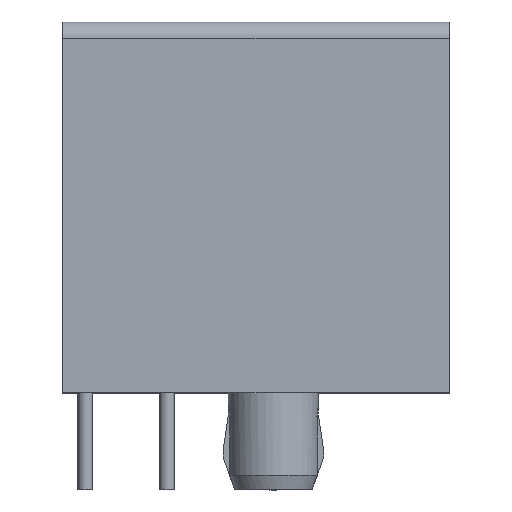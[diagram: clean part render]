
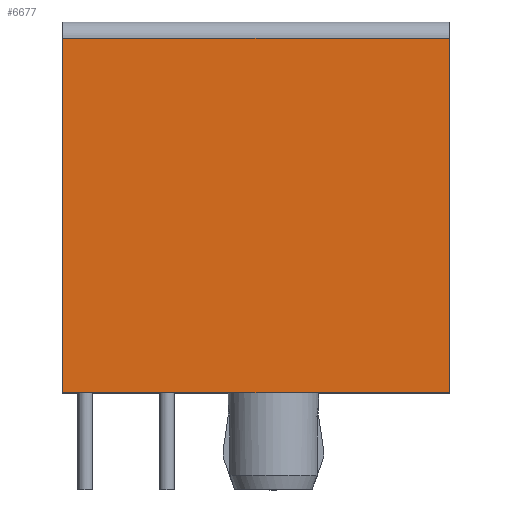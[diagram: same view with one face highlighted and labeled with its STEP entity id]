
A CAD part, top view. The second image highlights one B-rep face of the part: STEP entity #6677.
In plain terms, the highlighted planar face has unit normal (0, 0, 1).
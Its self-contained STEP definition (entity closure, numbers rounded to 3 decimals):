
#27=DIRECTION('',(0.,-1.,0.));
#28=VECTOR('',#27,11.);
#29=CARTESIAN_POINT('',(0.,11.,7.525));
#30=LINE('',#29,#28);
#234=DIRECTION('',(0.,-1.,0.));
#235=VECTOR('',#234,11.);
#236=CARTESIAN_POINT('',(-12.,11.,7.525));
#237=LINE('',#236,#235);
#1555=DIRECTION('',(-1.,0.,0.));
#1556=VECTOR('',#1555,12.);
#1557=CARTESIAN_POINT('',(0.,0.,7.525));
#1558=LINE('',#1557,#1556);
#1939=DIRECTION('',(-1.,0.,0.));
#1940=VECTOR('',#1939,12.);
#1941=CARTESIAN_POINT('',(0.,11.,7.525));
#1942=LINE('',#1941,#1940);
#3474=CARTESIAN_POINT('',(0.,0.,7.525));
#3476=VERTEX_POINT('',#3474);
#3478=CARTESIAN_POINT('',(-12.,0.,7.525));
#3479=VERTEX_POINT('',#3478);
#4446=CARTESIAN_POINT('',(-12.,11.,7.525));
#4448=VERTEX_POINT('',#4446);
#4452=CARTESIAN_POINT('',(0.,11.,7.525));
#4453=VERTEX_POINT('',#4452);
#6665=CARTESIAN_POINT('',(0.,11.5,7.525));
#6666=DIRECTION('',(0.,0.,1.));
#6667=DIRECTION('',(0.,-1.,0.));
#6668=AXIS2_PLACEMENT_3D('',#6665,#6666,#6667);
#6669=PLANE('',#6668);
#6671=ORIENTED_EDGE('',*,*,#6670,.F.);
#6672=ORIENTED_EDGE('',*,*,#4513,.T.);
#6673=ORIENTED_EDGE('',*,*,#6313,.T.);
#6674=ORIENTED_EDGE('',*,*,#4579,.F.);
#6675=EDGE_LOOP('',(#6671,#6672,#6673,#6674));
#6676=FACE_OUTER_BOUND('',#6675,.F.);
#6677=ADVANCED_FACE('',(#6676),#6669,.T.);
#4513=EDGE_CURVE('',#4453,#3476,#30,.T.);
#4579=EDGE_CURVE('',#4448,#3479,#237,.T.);
#6313=EDGE_CURVE('',#3476,#3479,#1558,.T.);
#6670=EDGE_CURVE('',#4453,#4448,#1942,.T.);
